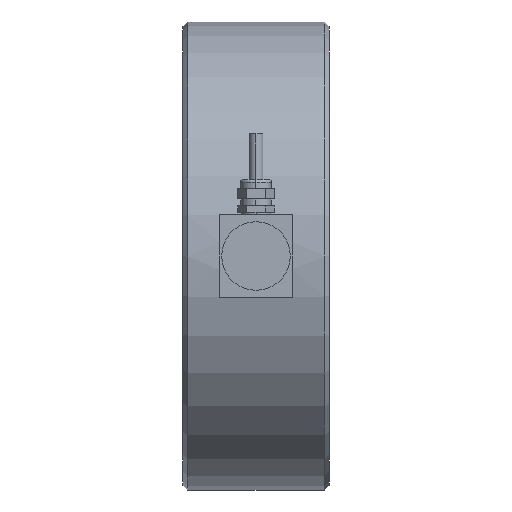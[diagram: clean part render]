
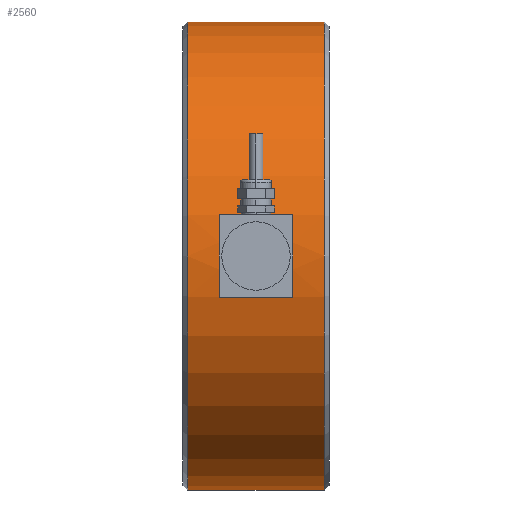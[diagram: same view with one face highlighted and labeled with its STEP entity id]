
A CAD part, left-side view. The second image highlights one B-rep face of the part: STEP entity #2560.
In plain terms, the highlighted cylindrical face has radius 102.5 mm (diameter 205 mm), a partial arc.
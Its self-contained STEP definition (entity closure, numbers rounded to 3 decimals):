
#13 = FACE_OUTER_BOUND ( 'NONE', #2780, .T. ) ;
#19 = CARTESIAN_POINT ( 'NONE',  ( 0., 0., -102.5 ) ) ;
#23 = VERTEX_POINT ( 'NONE', #422 ) ;
#26 = CYLINDRICAL_SURFACE ( 'NONE', #768, 102.5 ) ;
#54 = CARTESIAN_POINT ( 'NONE',  ( 0., 0., 0. ) ) ;
#77 = DIRECTION ( 'NONE',  ( 0., -1., 0. ) ) ;
#103 = ORIENTED_EDGE ( 'NONE', *, *, #1864, .T. ) ;
#112 = EDGE_CURVE ( 'NONE', #1911, #2798, #1315, .T. ) ;
#135 = CARTESIAN_POINT ( 'NONE',  ( -100.907, 48., 18. ) ) ;
#138 = AXIS2_PLACEMENT_3D ( 'NONE', #2269, #77, #2366 ) ;
#274 = DIRECTION ( 'NONE',  ( 0., -1., 0. ) ) ;
#316 = ORIENTED_EDGE ( 'NONE', *, *, #112, .T. ) ;
#373 = AXIS2_PLACEMENT_3D ( 'NONE', #764, #2102, #1863 ) ;
#418 = EDGE_CURVE ( 'NONE', #2261, #1073, #1422, .T. ) ;
#422 = CARTESIAN_POINT ( 'NONE',  ( 0., 2., 102.5 ) ) ;
#479 = DIRECTION ( 'NONE',  ( 0., -1., 0. ) ) ;
#494 = CARTESIAN_POINT ( 'NONE',  ( -100.907, 16., 18. ) ) ;
#528 = CIRCLE ( 'NONE', #2700, 102.5 ) ;
#541 = DIRECTION ( 'NONE',  ( 0., -1., 0. ) ) ;
#553 = CARTESIAN_POINT ( 'NONE',  ( 0., 2., 0. ) ) ;
#573 = AXIS2_PLACEMENT_3D ( 'NONE', #553, #1624, #1417 ) ;
#670 = CIRCLE ( 'NONE', #573, 102.5 ) ;
#712 = CARTESIAN_POINT ( 'NONE',  ( 0., 62., 0. ) ) ;
#732 = DIRECTION ( 'NONE',  ( 0., 1., 0. ) ) ;
#755 = ORIENTED_EDGE ( 'NONE', *, *, #418, .F. ) ;
#764 = CARTESIAN_POINT ( 'NONE',  ( 0., 16., 0. ) ) ;
#768 = AXIS2_PLACEMENT_3D ( 'NONE', #54, #479, #2231 ) ;
#874 = VECTOR ( 'NONE', #274, 1000. ) ;
#915 = DIRECTION ( 'NONE',  ( 0., -1., 0. ) ) ;
#1073 = VERTEX_POINT ( 'NONE', #135 ) ;
#1105 = CARTESIAN_POINT ( 'NONE',  ( 0., 2., -102.5 ) ) ;
#1180 = CARTESIAN_POINT ( 'NONE',  ( -100.907, 0., 18. ) ) ;
#1188 = CARTESIAN_POINT ( 'NONE',  ( 0., 0., 102.5 ) ) ;
#1263 = EDGE_CURVE ( 'NONE', #2123, #1437, #528, .T. ) ;
#1266 = EDGE_CURVE ( 'NONE', #1821, #23, #670, .T. ) ;
#1315 = LINE ( 'NONE', #2174, #2371 ) ;
#1417 = DIRECTION ( 'NONE',  ( 0., 0., -1. ) ) ;
#1422 = LINE ( 'NONE', #1180, #1886 ) ;
#1427 = CARTESIAN_POINT ( 'NONE',  ( -100.907, 48., -18. ) ) ;
#1437 = VERTEX_POINT ( 'NONE', #2243 ) ;
#1605 = EDGE_CURVE ( 'NONE', #1911, #2261, #2456, .T. ) ;
#1624 = DIRECTION ( 'NONE',  ( 0., 1., 0. ) ) ;
#1821 = VERTEX_POINT ( 'NONE', #1105 ) ;
#1863 = DIRECTION ( 'NONE',  ( 0., 0., -1. ) ) ;
#1864 = EDGE_CURVE ( 'NONE', #1437, #1821, #2657, .T. ) ;
#1886 = VECTOR ( 'NONE', #732, 1000. ) ;
#1911 = VERTEX_POINT ( 'NONE', #2054 ) ;
#1946 = EDGE_CURVE ( 'NONE', #1073, #2798, #2680, .T. ) ;
#2043 = FACE_BOUND ( 'NONE', #2375, .T. ) ;
#2054 = CARTESIAN_POINT ( 'NONE',  ( -100.907, 16., -18. ) ) ;
#2102 = DIRECTION ( 'NONE',  ( 0., 1., 0. ) ) ;
#2123 = VERTEX_POINT ( 'NONE', #2652 ) ;
#2174 = CARTESIAN_POINT ( 'NONE',  ( -100.907, 0., -18. ) ) ;
#2182 = EDGE_CURVE ( 'NONE', #2123, #23, #2470, .T. ) ;
#2222 = ORIENTED_EDGE ( 'NONE', *, *, #2182, .F. ) ;
#2231 = DIRECTION ( 'NONE',  ( 0., 0., -1. ) ) ;
#2243 = CARTESIAN_POINT ( 'NONE',  ( 0., 62., -102.5 ) ) ;
#2261 = VERTEX_POINT ( 'NONE', #494 ) ;
#2269 = CARTESIAN_POINT ( 'NONE',  ( 0., 48., 0. ) ) ;
#2272 = ORIENTED_EDGE ( 'NONE', *, *, #1946, .F. ) ;
#2363 = VECTOR ( 'NONE', #915, 1000. ) ;
#2366 = DIRECTION ( 'NONE',  ( 0., 0., 1. ) ) ;
#2371 = VECTOR ( 'NONE', #2408, 1000. ) ;
#2375 = EDGE_LOOP ( 'NONE', ( #2525, #316, #2272, #755 ) ) ;
#2408 = DIRECTION ( 'NONE',  ( 0., 1., 0. ) ) ;
#2456 = CIRCLE ( 'NONE', #373, 102.5 ) ;
#2470 = LINE ( 'NONE', #1188, #874 ) ;
#2525 = ORIENTED_EDGE ( 'NONE', *, *, #1605, .F. ) ;
#2529 = ORIENTED_EDGE ( 'NONE', *, *, #1266, .T. ) ;
#2560 = ADVANCED_FACE ( 'NONE', ( #13, #2043 ), #26, .T. ) ;
#2652 = CARTESIAN_POINT ( 'NONE',  ( 0., 62., 102.5 ) ) ;
#2657 = LINE ( 'NONE', #19, #2363 ) ;
#2680 = CIRCLE ( 'NONE', #138, 102.5 ) ;
#2700 = AXIS2_PLACEMENT_3D ( 'NONE', #712, #541, #2742 ) ;
#2719 = ORIENTED_EDGE ( 'NONE', *, *, #1263, .T. ) ;
#2742 = DIRECTION ( 'NONE',  ( 0., 0., 1. ) ) ;
#2780 = EDGE_LOOP ( 'NONE', ( #2222, #2719, #103, #2529 ) ) ;
#2798 = VERTEX_POINT ( 'NONE', #1427 ) ;
